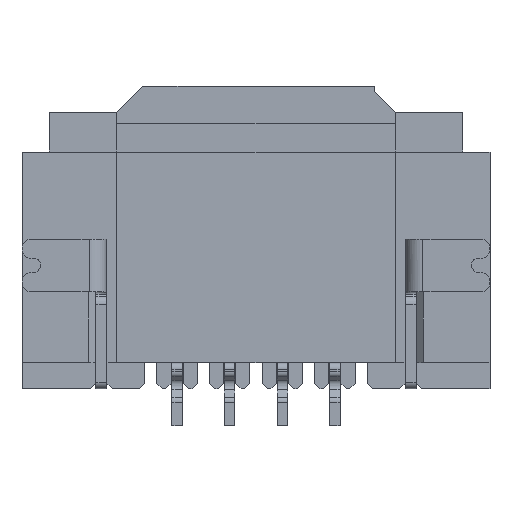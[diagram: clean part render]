
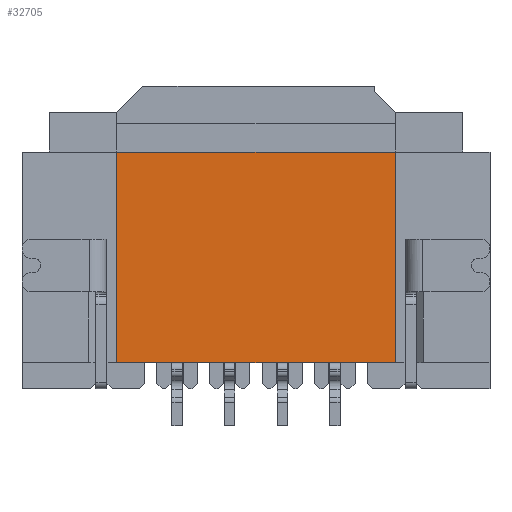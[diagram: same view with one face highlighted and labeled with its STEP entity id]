
A CAD part, front view. The second image highlights one B-rep face of the part: STEP entity #32705.
In plain terms, the highlighted planar face has unit normal (0, -1, 0).
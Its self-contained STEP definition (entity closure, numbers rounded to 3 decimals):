
#838 = DIRECTION ( 'NONE',  ( 1., 0., 0. ) ) ;
#899 = VERTEX_POINT ( 'NONE', #27006 ) ;
#3130 = DIRECTION ( 'NONE',  ( 0., 0., 1. ) ) ;
#4959 = EDGE_CURVE ( 'NONE', #7725, #899, #11022, .T. ) ;
#5389 = ORIENTED_EDGE ( 'NONE', *, *, #4959, .F. ) ;
#6074 = VECTOR ( 'NONE', #31933, 1000. ) ;
#7725 = VERTEX_POINT ( 'NONE', #12710 ) ;
#8407 = DIRECTION ( 'NONE',  ( 0., 1., 0. ) ) ;
#9329 = LINE ( 'NONE', #32413, #27518 ) ;
#10992 = LINE ( 'NONE', #25149, #6074 ) ;
#11022 = LINE ( 'NONE', #22452, #16344 ) ;
#11515 = DIRECTION ( 'NONE',  ( 1., 0., 0. ) ) ;
#12287 = CARTESIAN_POINT ( 'NONE',  ( -77.47, 0.762, -133.477 ) ) ;
#12710 = CARTESIAN_POINT ( 'NONE',  ( -77.47, 0.762, -133.477 ) ) ;
#14225 = CARTESIAN_POINT ( 'NONE',  ( -38.735, 0.762, -82.677 ) ) ;
#16344 = VECTOR ( 'NONE', #17218, 1000. ) ;
#17218 = DIRECTION ( 'NONE',  ( 0., 0., 1. ) ) ;
#18622 = EDGE_CURVE ( 'NONE', #20649, #29107, #9329, .T. ) ;
#18920 = EDGE_LOOP ( 'NONE', ( #5389, #27992, #36924, #22638 ) ) ;
#20444 = AXIS2_PLACEMENT_3D ( 'NONE', #14225, #8407, #11515 ) ;
#20649 = VERTEX_POINT ( 'NONE', #31280 ) ;
#21894 = VECTOR ( 'NONE', #838, 1000. ) ;
#22452 = CARTESIAN_POINT ( 'NONE',  ( -77.47, 0.762, -133.477 ) ) ;
#22638 = ORIENTED_EDGE ( 'NONE', *, *, #24483, .T. ) ;
#24483 = EDGE_CURVE ( 'NONE', #29107, #899, #10992, .T. ) ;
#24498 = LINE ( 'NONE', #12287, #21894 ) ;
#25149 = CARTESIAN_POINT ( 'NONE',  ( 57.15, 0.762, -31.877 ) ) ;
#26450 = PLANE ( 'NONE',  #20444 ) ;
#27006 = CARTESIAN_POINT ( 'NONE',  ( -77.47, 0.762, -31.877 ) ) ;
#27518 = VECTOR ( 'NONE', #3130, 1000. ) ;
#27992 = ORIENTED_EDGE ( 'NONE', *, *, #37255, .T. ) ;
#29107 = VERTEX_POINT ( 'NONE', #31224 ) ;
#31224 = CARTESIAN_POINT ( 'NONE',  ( 57.15, 0.762, -31.877 ) ) ;
#31280 = CARTESIAN_POINT ( 'NONE',  ( 57.15, 0.762, -133.477 ) ) ;
#31933 = DIRECTION ( 'NONE',  ( -1., 0., 0. ) ) ;
#32413 = CARTESIAN_POINT ( 'NONE',  ( 57.15, 0.762, -133.477 ) ) ;
#32705 = ADVANCED_FACE ( 'NONE', ( #38087 ), #26450, .F. ) ;
#36924 = ORIENTED_EDGE ( 'NONE', *, *, #18622, .T. ) ;
#37255 = EDGE_CURVE ( 'NONE', #7725, #20649, #24498, .T. ) ;
#38087 = FACE_OUTER_BOUND ( 'NONE', #18920, .T. ) ;
